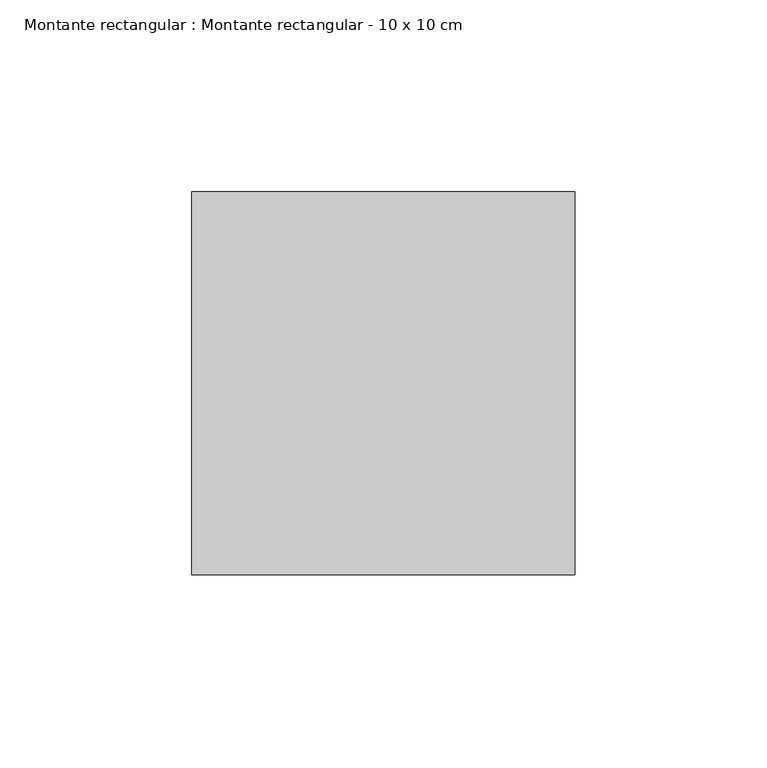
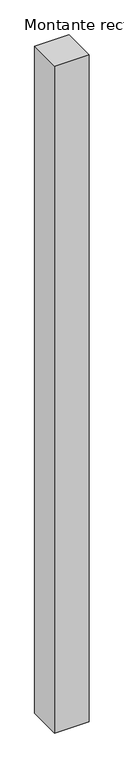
"""IFC4 building model written with IfcOpenShell, lengths in millimetres: member geometry, Montante rectangular : Montante rectangular - 10 x 10 cm."""

from ifc_helpers import new_model, si_unit, frame, origin, place, context, project, spatial, polyline, outline, extrude, source, transform, mapped, element, save


def montante_rectangular_montante_rectangular_10_x_10_cm_c82e07c8(model_context):
    return source(origin(), model_context, "Body", "SweptSolid", [
        extrude(outline(polyline([(0.0, 50.0), (0.0, -50.0), (-100.0, -50.0), (-100.0, 50.0), (0.0, 50.0)])), frame((0.0, 0.0, -2050.0), z_axis=(0.0, 0.0, 1.0), x_axis=(1.0, 0.0, 0.0)), (0.0, 0.0, 1.0), 2050.0),
    ])


if __name__ == "__main__":
    model = new_model("IFC4")
    model_context = context("Model", 3, world=origin())
    ifc_project = project(units=[si_unit("LENGTHUNIT", "METRE", prefix="MILLI")], contexts=[model_context])
    site = spatial("IfcSite", under=ifc_project)
    building = spatial("IfcBuilding", under=site)
    placement = place(None, origin())
    montante_rectangular_montante_rectangular_10_x_10_cm_shape = montante_rectangular_montante_rectangular_10_x_10_cm_c82e07c8(model_context)
    element("IfcMember", 1, ObjectType="Montante rectangular : Montante rectangular - 10 x 10 cm", at=placement, inside=building, context=model_context, shape_type="MappedRepresentation", body=[
        mapped(montante_rectangular_montante_rectangular_10_x_10_cm_shape, transform((0.0, 0.0, 0.0), x_axis=(1.0, 0.0, 0.0), y_axis=(0.0, 1.0, 0.0), z_axis=(0.0, 0.0, 1.0))),
    ])
    save(model, "model.ifc")
